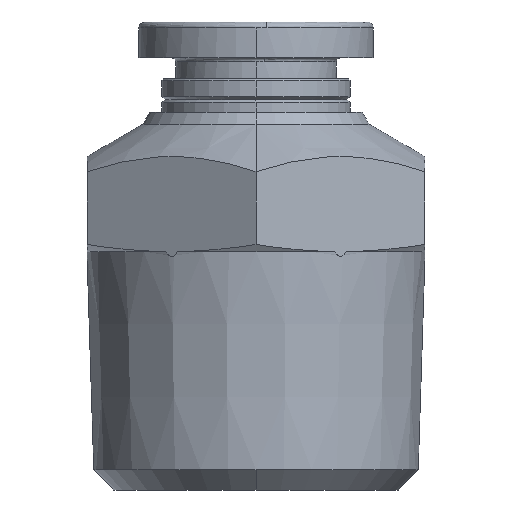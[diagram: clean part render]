
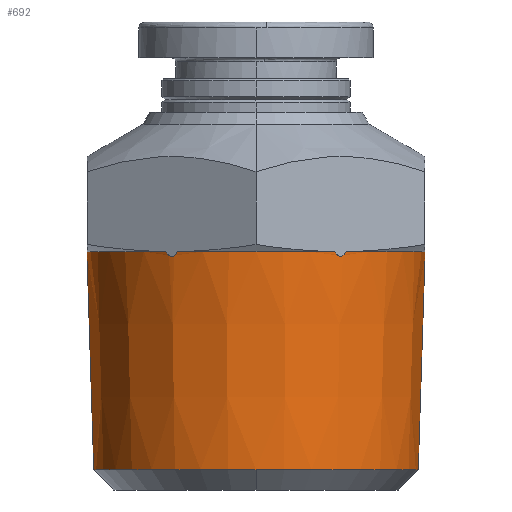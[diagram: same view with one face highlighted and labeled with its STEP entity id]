
A CAD part, left-side view. The second image highlights one B-rep face of the part: STEP entity #692.
In plain terms, the highlighted conical face has half-angle 1.79 degrees and reference radius 8.508 mm.
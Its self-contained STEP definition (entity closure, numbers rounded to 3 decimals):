
#3 = EDGE_CURVE ( 'NONE', #910, #1608, #463, .T. ) ;
#4 = CIRCLE ( 'NONE', #988, 8.508 ) ;
#6 = CARTESIAN_POINT ( 'NONE',  ( -7.518, -3.978, 11.94 ) ) ;
#22 = AXIS2_PLACEMENT_3D ( 'NONE', #529, #812, #821 ) ;
#34 = CARTESIAN_POINT ( 'NONE',  ( -7.182, 4.561, 12. ) ) ;
#43 = CARTESIAN_POINT ( 'NONE',  ( -7.399, 4.184, 11.758 ) ) ;
#73 = ORIENTED_EDGE ( 'NONE', *, *, #959, .T. ) ;
#76 = EDGE_CURVE ( 'NONE', #1608, #251, #1412, .T. ) ;
#82 = CARTESIAN_POINT ( 'NONE',  ( -0.075, 8.5, 11.758 ) ) ;
#92 = CARTESIAN_POINT ( 'NONE',  ( -0.359, -8.5, 12. ) ) ;
#115 = ORIENTED_EDGE ( 'NONE', *, *, #137, .T. ) ;
#117 = CARTESIAN_POINT ( 'NONE',  ( -7.323, -4.316, 11.758 ) ) ;
#127 = CARTESIAN_POINT ( 'NONE',  ( -7.398, -4.186, 11.758 ) ) ;
#137 = EDGE_CURVE ( 'NONE', #993, #1201, #1436, .T. ) ;
#149 = CARTESIAN_POINT ( 'NONE',  ( -7.228, -4.48, 11.884 ) ) ;
#176 = ORIENTED_EDGE ( 'NONE', *, *, #942, .F. ) ;
#180 = CARTESIAN_POINT ( 'NONE',  ( -7.518, 3.978, 11.94 ) ) ;
#197 = CARTESIAN_POINT ( 'NONE',  ( -8.164, 0., 1.014 ) ) ;
#214 = CARTESIAN_POINT ( 'NONE',  ( 0., 0., 12. ) ) ;
#217 = VERTEX_POINT ( 'NONE', #1040 ) ;
#220 = CARTESIAN_POINT ( 'NONE',  ( 0., 8.5, 11.758 ) ) ;
#251 = VERTEX_POINT ( 'NONE', #262 ) ;
#262 = CARTESIAN_POINT ( 'NONE',  ( -0.359, 8.5, 12. ) ) ;
#271 = CARTESIAN_POINT ( 'NONE',  ( 0., 0., 1.014 ) ) ;
#273 = CARTESIAN_POINT ( 'NONE',  ( -7.434, -4.124, 11.791 ) ) ;
#275 = CARTESIAN_POINT ( 'NONE',  ( -0.075, -8.5, 11.758 ) ) ;
#295 = EDGE_CURVE ( 'NONE', #1597, #1159, #1329, .T. ) ;
#319 = CARTESIAN_POINT ( 'NONE',  ( -7.182, -4.561, 12. ) ) ;
#336 = EDGE_CURVE ( 'NONE', #493, #993, #1581, .T. ) ;
#342 = VECTOR ( 'NONE', #494, 1000. ) ;
#353 = DIRECTION ( 'NONE',  ( 0., 0., 1. ) ) ;
#368 = CARTESIAN_POINT ( 'NONE',  ( 0., -8.164, 1.014 ) ) ;
#402 = CARTESIAN_POINT ( 'NONE',  ( -0.359, -8.5, 12. ) ) ;
#410 = CARTESIAN_POINT ( 'NONE',  ( -7.493, -4.021, 11.883 ) ) ;
#415 = AXIS2_PLACEMENT_3D ( 'NONE', #271, #1200, #930 ) ;
#435 = CARTESIAN_POINT ( 'NONE',  ( -7.324, 4.314, 11.758 ) ) ;
#447 = DIRECTION ( 'NONE',  ( 0., 0., -1. ) ) ;
#455 = AXIS2_PLACEMENT_3D ( 'NONE', #1541, #447, #1548 ) ;
#463 = B_SPLINE_CURVE_WITH_KNOTS ( 'NONE', 3,
 ( #1169, #180, #1684, #1525, #43, #435, #1114, #1404, #699, #34 ),
 .UNSPECIFIED., .F., .F.,
 ( 4, 2, 2, 2, 4 ),
 ( 0., 0., 0., 0.001, 0.001 ),
 .UNSPECIFIED. ) ;
#474 = CARTESIAN_POINT ( 'NONE',  ( 0., 0., 12. ) ) ;
#488 = ORIENTED_EDGE ( 'NONE', *, *, #3, .T. ) ;
#493 = VERTEX_POINT ( 'NONE', #994 ) ;
#494 = DIRECTION ( 'NONE',  ( 0., 0.031, 1. ) ) ;
#504 = CARTESIAN_POINT ( 'NONE',  ( -0.147, 8.5, 11.792 ) ) ;
#529 = CARTESIAN_POINT ( 'NONE',  ( 0., 0., 12. ) ) ;
#608 = CARTESIAN_POINT ( 'NONE',  ( -0.359, 8.5, 12. ) ) ;
#619 = FACE_OUTER_BOUND ( 'NONE', #1027, .T. ) ;
#638 = CARTESIAN_POINT ( 'NONE',  ( 0., 8.508, 12. ) ) ;
#692 = ADVANCED_FACE ( '25', ( #619 ), #1408, .T. ) ;
#699 = CARTESIAN_POINT ( 'NONE',  ( -7.204, 4.522, 11.94 ) ) ;
#707 = CARTESIAN_POINT ( 'NONE',  ( -7.541, 3.939, 12. ) ) ;
#713 = EDGE_CURVE ( 'NONE', #1159, #1754, #822, .T. ) ;
#760 = DIRECTION ( 'NONE',  ( -0.998, 0.065, 0. ) ) ;
#765 = EDGE_CURVE ( 'NONE', #1754, #1668, #1066, .T. ) ;
#784 = DIRECTION ( 'NONE',  ( 0., -1., 0. ) ) ;
#787 = ORIENTED_EDGE ( 'NONE', *, *, #295, .T. ) ;
#800 = AXIS2_PLACEMENT_3D ( 'NONE', #214, #353, #784 ) ;
#803 = CARTESIAN_POINT ( 'NONE',  ( -0.146, -8.5, 11.792 ) ) ;
#812 = DIRECTION ( 'NONE',  ( 0., 0., -1. ) ) ;
#821 = DIRECTION ( 'NONE',  ( -0.998, 0.065, 0. ) ) ;
#822 = CIRCLE ( 'NONE', #22, 8.508 ) ;
#827 = ORIENTED_EDGE ( 'NONE', *, *, #713, .T. ) ;
#859 = EDGE_CURVE ( 'NONE', #1201, #1597, #1640, .T. ) ;
#906 = ORIENTED_EDGE ( 'NONE', *, *, #859, .T. ) ;
#910 = VERTEX_POINT ( 'NONE', #707 ) ;
#911 = DIRECTION ( 'NONE',  ( 0., 0., -1. ) ) ;
#930 = DIRECTION ( 'NONE',  ( -0.998, 0.065, 0. ) ) ;
#938 = CARTESIAN_POINT ( 'NONE',  ( -7.182, 4.561, 12. ) ) ;
#942 = EDGE_CURVE ( 'NONE', #493, #217, #1437, .T. ) ;
#959 = EDGE_CURVE ( 'NONE', #251, #217, #1361, .T. ) ;
#970 = EDGE_CURVE ( 'NONE', #1668, #910, #4, .T. ) ;
#988 = AXIS2_PLACEMENT_3D ( 'NONE', #474, #911, #760 ) ;
#993 = VERTEX_POINT ( 'NONE', #197 ) ;
#994 = CARTESIAN_POINT ( 'NONE',  ( 0., 8.164, 1.014 ) ) ;
#1027 = EDGE_LOOP ( 'NONE', ( #176, #1579, #115, #906, #787, #827, #1615, #1711, #488, #1338, #73 ) ) ;
#1029 = CARTESIAN_POINT ( 'NONE',  ( 0., 0., 1.014 ) ) ;
#1040 = CARTESIAN_POINT ( 'NONE',  ( 0., 8.5, 11.758 ) ) ;
#1047 = VECTOR ( 'NONE', #1501, 1000. ) ;
#1066 = B_SPLINE_CURVE_WITH_KNOTS ( 'NONE', 3,
 ( #1078, #1217, #149, #1210, #117, #127, #273, #410, #6, #1197 ),
 .UNSPECIFIED., .F., .F.,
 ( 4, 2, 2, 2, 4 ),
 ( 0., 0., 0., 0.001, 0.001 ),
 .UNSPECIFIED. ) ;
#1078 = CARTESIAN_POINT ( 'NONE',  ( -7.182, -4.561, 12. ) ) ;
#1090 = CARTESIAN_POINT ( 'NONE',  ( 0., -8.5, 11.758 ) ) ;
#1114 = CARTESIAN_POINT ( 'NONE',  ( -7.288, 4.376, 11.791 ) ) ;
#1159 = VERTEX_POINT ( 'NONE', #92 ) ;
#1169 = CARTESIAN_POINT ( 'NONE',  ( -7.541, 3.939, 12. ) ) ;
#1197 = CARTESIAN_POINT ( 'NONE',  ( -7.541, -3.939, 12. ) ) ;
#1200 = DIRECTION ( 'NONE',  ( 0., 0., 1. ) ) ;
#1201 = VERTEX_POINT ( 'NONE', #368 ) ;
#1210 = CARTESIAN_POINT ( 'NONE',  ( -7.287, -4.378, 11.793 ) ) ;
#1217 = CARTESIAN_POINT ( 'NONE',  ( -7.204, -4.522, 11.94 ) ) ;
#1312 = DIRECTION ( 'NONE',  ( 0., 0., 1. ) ) ;
#1329 = B_SPLINE_CURVE_WITH_KNOTS ( 'NONE', 3,
 ( #1090, #275, #803, #1351, #1484, #402 ),
 .UNSPECIFIED., .F., .F.,
 ( 4, 2, 4 ),
 ( 0., 0.001, 0.001 ),
 .UNSPECIFIED. ) ;
#1338 = ORIENTED_EDGE ( 'NONE', *, *, #76, .T. ) ;
#1351 = CARTESIAN_POINT ( 'NONE',  ( -0.264, -8.5, 11.883 ) ) ;
#1361 = B_SPLINE_CURVE_WITH_KNOTS ( 'NONE', 3,
 ( #608, #1547, #1570, #504, #82, #220 ),
 .UNSPECIFIED., .F., .F.,
 ( 4, 2, 4 ),
 ( 0., 0., 0. ),
 .UNSPECIFIED. ) ;
#1374 = AXIS2_PLACEMENT_3D ( 'NONE', #1029, #1312, #1438 ) ;
#1404 = CARTESIAN_POINT ( 'NONE',  ( -7.229, 4.479, 11.883 ) ) ;
#1408 = CONICAL_SURFACE ( 'NONE', #800, 8.508, 0.031 ) ;
#1412 = CIRCLE ( 'NONE', #455, 8.508 ) ;
#1436 = CIRCLE ( 'NONE', #1374, 8.164 ) ;
#1437 = LINE ( 'NONE', #638, #342 ) ;
#1438 = DIRECTION ( 'NONE',  ( -0.998, 0.065, 0. ) ) ;
#1484 = CARTESIAN_POINT ( 'NONE',  ( -0.314, -8.5, 11.94 ) ) ;
#1501 = DIRECTION ( 'NONE',  ( 0., -0.031, 1. ) ) ;
#1522 = CARTESIAN_POINT ( 'NONE',  ( 0., -8.508, 12. ) ) ;
#1525 = CARTESIAN_POINT ( 'NONE',  ( -7.435, 4.122, 11.793 ) ) ;
#1534 = CARTESIAN_POINT ( 'NONE',  ( -7.541, -3.939, 12. ) ) ;
#1541 = CARTESIAN_POINT ( 'NONE',  ( 0., 0., 12. ) ) ;
#1547 = CARTESIAN_POINT ( 'NONE',  ( -0.314, 8.5, 11.94 ) ) ;
#1548 = DIRECTION ( 'NONE',  ( 1., 0., 0. ) ) ;
#1570 = CARTESIAN_POINT ( 'NONE',  ( -0.265, 8.5, 11.884 ) ) ;
#1579 = ORIENTED_EDGE ( 'NONE', *, *, #336, .T. ) ;
#1581 = CIRCLE ( 'NONE', #415, 8.164 ) ;
#1597 = VERTEX_POINT ( 'NONE', #1632 ) ;
#1608 = VERTEX_POINT ( 'NONE', #938 ) ;
#1615 = ORIENTED_EDGE ( 'NONE', *, *, #765, .T. ) ;
#1632 = CARTESIAN_POINT ( 'NONE',  ( 0., -8.5, 11.758 ) ) ;
#1640 = LINE ( 'NONE', #1522, #1047 ) ;
#1668 = VERTEX_POINT ( 'NONE', #1534 ) ;
#1684 = CARTESIAN_POINT ( 'NONE',  ( -7.494, 4.02, 11.884 ) ) ;
#1711 = ORIENTED_EDGE ( 'NONE', *, *, #970, .T. ) ;
#1754 = VERTEX_POINT ( 'NONE', #319 ) ;
